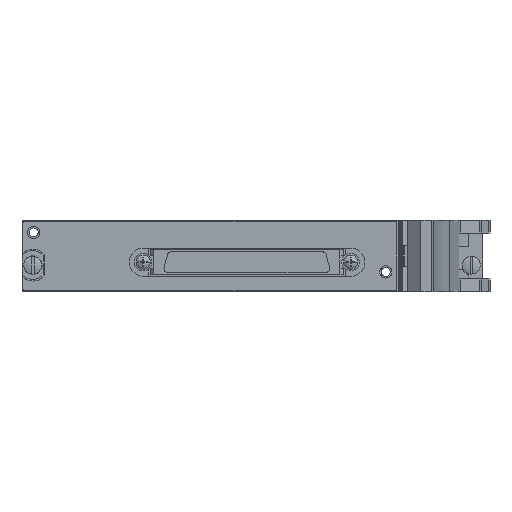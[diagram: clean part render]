
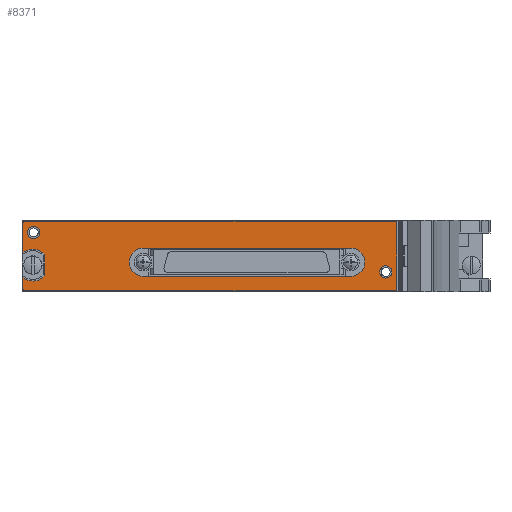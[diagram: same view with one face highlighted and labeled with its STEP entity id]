
A CAD part, left-side view. The second image highlights one B-rep face of the part: STEP entity #8371.
In plain terms, the highlighted planar face has unit normal (-1, 0, 0).
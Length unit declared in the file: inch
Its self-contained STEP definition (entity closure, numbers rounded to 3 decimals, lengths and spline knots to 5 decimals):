
#1980=CARTESIAN_POINT('',(-0.215,0.527,0.665));
#1981=DIRECTION('',(-1.,0.,0.));
#1982=DIRECTION('',(0.,0.,1.));
#1983=AXIS2_PLACEMENT_3D('',#1980,#1981,#1982);
#1985=DIRECTION('',(0.,1.,0.));
#1986=VECTOR('',#1985,4.07);
#1987=CARTESIAN_POINT('',(-0.215,-3.543,0.685));
#1988=LINE('',#1987,#1986);
#1989=CARTESIAN_POINT('',(-0.215,-3.543,0.665));
#1990=DIRECTION('',(-1.,0.,0.));
#1991=DIRECTION('',(0.,-1.,0.));
#1992=AXIS2_PLACEMENT_3D('',#1989,#1990,#1991);
#1994=DIRECTION('',(0.,0.,1.));
#1995=VECTOR('',#1994,0.728);
#1996=CARTESIAN_POINT('',(-0.215,-3.563,-0.063));
#1997=LINE('',#1996,#1995);
#1998=CARTESIAN_POINT('',(-0.215,-3.543,-0.063));
#1999=DIRECTION('',(-1.,0.,0.));
#2000=DIRECTION('',(0.,0.,-1.));
#2001=AXIS2_PLACEMENT_3D('',#1998,#1999,#2000);
#2003=DIRECTION('',(0.,-1.,0.));
#2004=VECTOR('',#2003,4.07);
#2005=CARTESIAN_POINT('',(-0.215,0.527,-0.083));
#2006=LINE('',#2005,#2004);
#2007=CARTESIAN_POINT('',(-0.215,0.527,-0.063));
#2008=DIRECTION('',(-1.,0.,0.));
#2009=DIRECTION('',(0.,1.,0.));
#2010=AXIS2_PLACEMENT_3D('',#2007,#2008,#2009);
#2012=DIRECTION('',(0.,0.,-1.));
#2013=VECTOR('',#2012,0.1263);
#2014=CARTESIAN_POINT('',(-0.215,0.547,0.0633));
#2015=LINE('',#2014,#2013);
#2016=CARTESIAN_POINT('',(-0.215,0.439,0.201));
#2017=DIRECTION('',(1.,0.,0.));
#2018=DIRECTION('',(0.,-0.76,-0.65));
#2019=AXIS2_PLACEMENT_3D('',#2016,#2017,#2018);
#2021=DIRECTION('',(0.,0.,-1.));
#2022=VECTOR('',#2021,0.22747);
#2023=CARTESIAN_POINT('',(-0.215,0.306,0.31474));
#2024=LINE('',#2023,#2022);
#2025=CARTESIAN_POINT('',(-0.215,0.439,0.201));
#2026=DIRECTION('',(1.,0.,0.));
#2027=DIRECTION('',(0.,0.617,0.787));
#2028=AXIS2_PLACEMENT_3D('',#2025,#2026,#2027);
#2030=DIRECTION('',(0.,0.,-1.));
#2031=VECTOR('',#2030,0.3263);
#2032=CARTESIAN_POINT('',(-0.215,0.547,0.665));
#2033=LINE('',#2032,#2031);
#2034=DIRECTION('',(0.,-1.,0.));
#2035=VECTOR('',#2034,2.28);
#2036=CARTESIAN_POINT('',(-0.215,-0.775,0.078));
#2037=LINE('',#2036,#2035);
#2038=CARTESIAN_POINT('',(-0.215,-3.055,0.233));
#2039=DIRECTION('',(-1.,0.,0.));
#2040=DIRECTION('',(0.,0.,-1.));
#2041=AXIS2_PLACEMENT_3D('',#2038,#2039,#2040);
#2043=DIRECTION('',(0.,1.,0.));
#2044=VECTOR('',#2043,2.28);
#2045=CARTESIAN_POINT('',(-0.215,-3.055,0.388));
#2046=LINE('',#2045,#2044);
#2047=CARTESIAN_POINT('',(-0.215,-0.775,0.233));
#2048=DIRECTION('',(-1.,0.,0.));
#2049=DIRECTION('',(0.,0.,1.));
#2050=AXIS2_PLACEMENT_3D('',#2047,#2048,#2049);
#2052=CARTESIAN_POINT('',(-0.215,0.429,0.56));
#2053=DIRECTION('',(1.,0.,0.));
#2054=DIRECTION('',(0.,0.,-1.));
#2055=AXIS2_PLACEMENT_3D('',#2052,#2053,#2054);
#2057=CARTESIAN_POINT('',(-0.215,0.429,0.56));
#2058=DIRECTION('',(1.,0.,0.));
#2059=DIRECTION('',(0.,0.,1.));
#2060=AXIS2_PLACEMENT_3D('',#2057,#2058,#2059);
#2062=CARTESIAN_POINT('',(-0.215,-3.44,0.12575));
#2063=DIRECTION('',(1.,0.,0.));
#2064=DIRECTION('',(0.,0.,-1.));
#2065=AXIS2_PLACEMENT_3D('',#2062,#2063,#2064);
#2067=CARTESIAN_POINT('',(-0.215,-3.44,0.12575));
#2068=DIRECTION('',(1.,0.,0.));
#2069=DIRECTION('',(0.,0.,1.));
#2070=AXIS2_PLACEMENT_3D('',#2067,#2068,#2069);
#4944=CARTESIAN_POINT('',(-0.215,0.527,0.685));
#4945=CARTESIAN_POINT('',(-0.215,0.547,0.665));
#4946=VERTEX_POINT('',#4944);
#4947=VERTEX_POINT('',#4945);
#4948=CARTESIAN_POINT('',(-0.215,0.547,0.3387));
#4949=VERTEX_POINT('',#4948);
#4950=CARTESIAN_POINT('',(-0.215,0.306,0.31474));
#4951=VERTEX_POINT('',#4950);
#4952=CARTESIAN_POINT('',(-0.215,0.306,0.08726));
#4953=VERTEX_POINT('',#4952);
#4954=CARTESIAN_POINT('',(-0.215,0.547,0.0633));
#4955=VERTEX_POINT('',#4954);
#4956=CARTESIAN_POINT('',(-0.215,0.547,-0.063));
#4957=VERTEX_POINT('',#4956);
#4958=CARTESIAN_POINT('',(-0.215,0.527,-0.083));
#4959=VERTEX_POINT('',#4958);
#4960=CARTESIAN_POINT('',(-0.215,-3.543,-0.083));
#4961=VERTEX_POINT('',#4960);
#4962=CARTESIAN_POINT('',(-0.215,-3.563,-0.063));
#4963=VERTEX_POINT('',#4962);
#4964=CARTESIAN_POINT('',(-0.215,-3.563,0.665));
#4965=VERTEX_POINT('',#4964);
#4966=CARTESIAN_POINT('',(-0.215,-3.543,0.685));
#4967=VERTEX_POINT('',#4966);
#4968=CARTESIAN_POINT('',(-0.215,-0.775,0.078));
#4969=CARTESIAN_POINT('',(-0.215,-3.055,0.078));
#4970=VERTEX_POINT('',#4968);
#4971=VERTEX_POINT('',#4969);
#4972=CARTESIAN_POINT('',(-0.215,-3.055,0.388));
#4973=VERTEX_POINT('',#4972);
#4974=CARTESIAN_POINT('',(-0.215,-0.775,0.388));
#4975=VERTEX_POINT('',#4974);
#4976=CARTESIAN_POINT('',(-0.215,0.429,0.4925));
#4977=CARTESIAN_POINT('',(-0.215,0.429,0.6275));
#4978=VERTEX_POINT('',#4976);
#4979=VERTEX_POINT('',#4977);
#4980=CARTESIAN_POINT('',(-0.215,-3.44,0.05825));
#4981=CARTESIAN_POINT('',(-0.215,-3.44,0.19325));
#4982=VERTEX_POINT('',#4980);
#4983=VERTEX_POINT('',#4981);
#8330=CARTESIAN_POINT('',(-0.215,0.439,0.201));
#8331=DIRECTION('',(-1.,0.,0.));
#8332=DIRECTION('',(0.,0.,1.));
#8333=AXIS2_PLACEMENT_3D('',#8330,#8331,#8332);
#8334=PLANE('',#8333);
#8335=ORIENTED_EDGE('',*,*,#8170,.F.);
#8336=ORIENTED_EDGE('',*,*,#8185,.F.);
#8337=ORIENTED_EDGE('',*,*,#8199,.F.);
#8338=ORIENTED_EDGE('',*,*,#8213,.F.);
#8339=ORIENTED_EDGE('',*,*,#8227,.F.);
#8340=ORIENTED_EDGE('',*,*,#8241,.F.);
#8341=ORIENTED_EDGE('',*,*,#8255,.F.);
#8342=ORIENTED_EDGE('',*,*,#8269,.F.);
#8343=ORIENTED_EDGE('',*,*,#8283,.F.);
#8344=ORIENTED_EDGE('',*,*,#8297,.F.);
#8345=ORIENTED_EDGE('',*,*,#8311,.F.);
#8346=ORIENTED_EDGE('',*,*,#8324,.F.);
#8347=EDGE_LOOP('',(#8335,#8336,#8337,#8338,#8339,#8340,#8341,#8342,#8343,#8344,
#8345,#8346));
#8348=FACE_OUTER_BOUND('',#8347,.F.);
#8350=ORIENTED_EDGE('',*,*,#8349,.T.);
#8352=ORIENTED_EDGE('',*,*,#8351,.T.);
#8354=ORIENTED_EDGE('',*,*,#8353,.T.);
#8356=ORIENTED_EDGE('',*,*,#8355,.T.);
#8357=EDGE_LOOP('',(#8350,#8352,#8354,#8356));
#8358=FACE_BOUND('',#8357,.F.);
#8360=ORIENTED_EDGE('',*,*,#8359,.F.);
#8362=ORIENTED_EDGE('',*,*,#8361,.F.);
#8363=EDGE_LOOP('',(#8360,#8362));
#8364=FACE_BOUND('',#8363,.F.);
#8366=ORIENTED_EDGE('',*,*,#8365,.F.);
#8368=ORIENTED_EDGE('',*,*,#8367,.F.);
#8369=EDGE_LOOP('',(#8366,#8368));
#8370=FACE_BOUND('',#8369,.F.);
#8371=ADVANCED_FACE('',(#8348,#8358,#8364,#8370),#8334,.T.);
#1984=CIRCLE('',#1983,0.02);
#1993=CIRCLE('',#1992,0.02);
#2002=CIRCLE('',#2001,0.02);
#2011=CIRCLE('',#2010,0.02);
#2020=CIRCLE('',#2019,0.175);
#2029=CIRCLE('',#2028,0.175);
#2042=CIRCLE('',#2041,0.155);
#2051=CIRCLE('',#2050,0.155);
#2056=CIRCLE('',#2055,0.0675);
#2061=CIRCLE('',#2060,0.0675);
#2066=CIRCLE('',#2065,0.0675);
#2071=CIRCLE('',#2070,0.0675);
#8170=EDGE_CURVE('',#4946,#4947,#1984,.T.);
#8185=EDGE_CURVE('',#4967,#4946,#1988,.T.);
#8199=EDGE_CURVE('',#4965,#4967,#1993,.T.);
#8213=EDGE_CURVE('',#4963,#4965,#1997,.T.);
#8227=EDGE_CURVE('',#4961,#4963,#2002,.T.);
#8241=EDGE_CURVE('',#4959,#4961,#2006,.T.);
#8255=EDGE_CURVE('',#4957,#4959,#2011,.T.);
#8269=EDGE_CURVE('',#4955,#4957,#2015,.T.);
#8283=EDGE_CURVE('',#4953,#4955,#2020,.T.);
#8297=EDGE_CURVE('',#4951,#4953,#2024,.T.);
#8311=EDGE_CURVE('',#4949,#4951,#2029,.T.);
#8324=EDGE_CURVE('',#4947,#4949,#2033,.T.);
#8349=EDGE_CURVE('',#4970,#4971,#2037,.T.);
#8351=EDGE_CURVE('',#4971,#4973,#2042,.T.);
#8353=EDGE_CURVE('',#4973,#4975,#2046,.T.);
#8355=EDGE_CURVE('',#4975,#4970,#2051,.T.);
#8359=EDGE_CURVE('',#4978,#4979,#2056,.T.);
#8361=EDGE_CURVE('',#4979,#4978,#2061,.T.);
#8365=EDGE_CURVE('',#4982,#4983,#2066,.T.);
#8367=EDGE_CURVE('',#4983,#4982,#2071,.T.);
